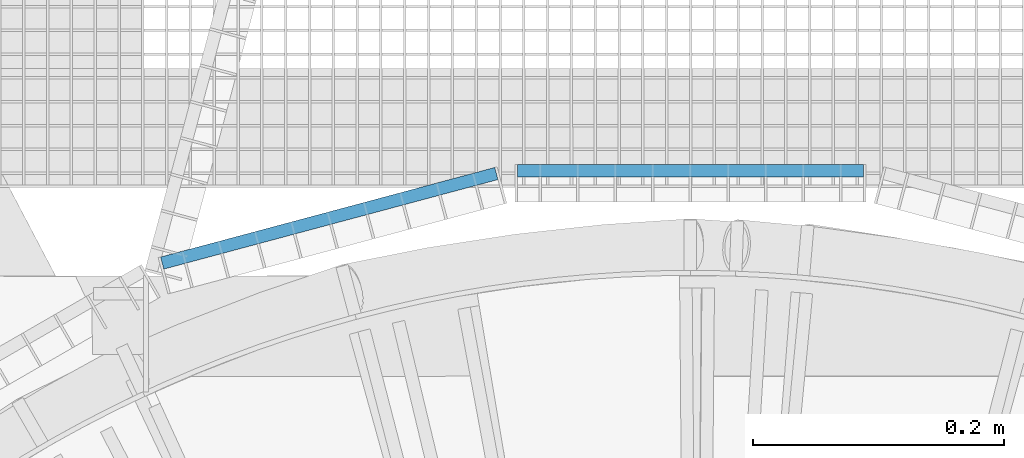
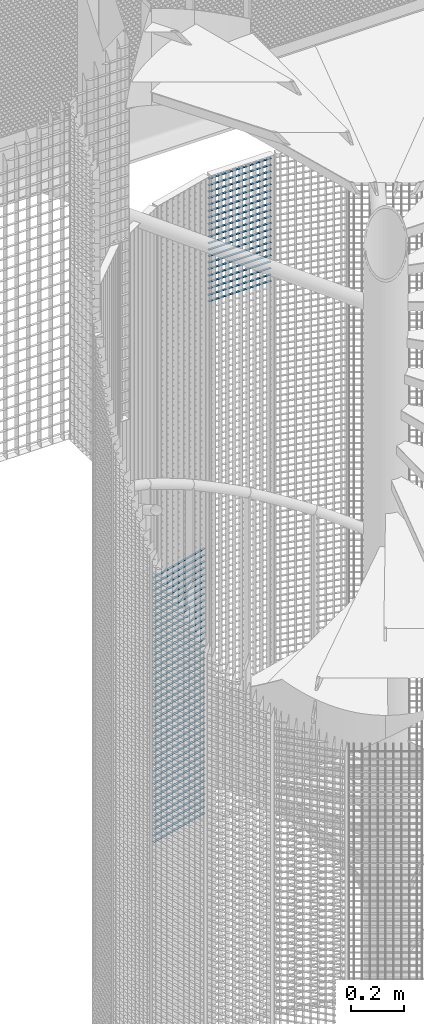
# One storey, part 304 of 1148: 62 beams, 2 elements without a shape of their own.
"""IFC2X3 building model written with IfcOpenShell, lengths in millimetres."""

from ifc_helpers import new_model, si_unit, frame, origin_with_axes, origin_2d_with_axis, place, context, subcontext, project, spatial, rectangle, extrude, material, type_object, element, aggregate, save


model = new_model("IFC2X3")

# Units and contexts
model_context = context("Model", 3, precision=1e-05, world=origin_with_axes())
body_context = subcontext(model_context, "Body", "Model", "MODEL_VIEW")
ifc_project = project(units=[si_unit("LENGTHUNIT", "METRE", prefix="MILLI"), si_unit("AREAUNIT", "SQUARE_METRE"), si_unit("VOLUMEUNIT", "CUBIC_METRE"), si_unit("MASSUNIT", "GRAM", prefix="KILO"), si_unit("TIMEUNIT", "SECOND"), si_unit("PLANEANGLEUNIT", "RADIAN"), si_unit("SOLIDANGLEUNIT", "STERADIAN"), si_unit("THERMODYNAMICTEMPERATUREUNIT", "DEGREE_CELSIUS"), si_unit("LUMINOUSINTENSITYUNIT", "LUMEN")], contexts=[model_context])

# Site, building, storey
site_placement = place(None, origin_with_axes())
site = spatial("IfcSite", under=ifc_project, at=site_placement, Name="Undefined", CompositionType="ELEMENT")
building_placement = place(site_placement, origin_with_axes())
building = spatial("IfcBuilding", under=site, at=building_placement, Name="Undefined", CompositionType="ELEMENT")
storey_placement = place(building_placement, origin_with_axes())
storey = spatial("IfcBuildingStorey", under=building, at=storey_placement, Name="Undefined", CompositionType="ELEMENT", Elevation=0.0)

# Assembly, beams
assembly_1_placement = place(storey_placement, origin_with_axes())
assembly_1 = element("IfcElementAssembly", 1, at=assembly_1_placement, inside=storey, Name="BORDURE", AssemblyPlace="NOTDEFINED", PredefinedType="NOTDEFINED")
ifc_material = material(Name="STEEL/S235JR")
beam_type = type_object("IfcBeamType", Name="PL2*10", PredefinedType="NOTDEFINED")
beam_1_placement = place(assembly_1_placement, frame((-154.895926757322, 1111.25508286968, 4260.0), z_axis=(-0.258819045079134, 0.965925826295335, 0.0), x_axis=(-0.965925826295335, -0.258819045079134, 0.0)))
beam_1 = element("IfcBeam", 2, at=beam_1_placement, type_object=beam_type, material=ifc_material, Name="ENTRETOISE", context=body_context, shape_type="SweptSolid", body=[
    extrude(rectangle(XDim=2.0, YDim=10.0, at=origin_2d_with_axis()), frame((275.999999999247, 9.09494701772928e-13, 1.53210777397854e-14), z_axis=(-1.0, 0.0, 0.0), x_axis=(0.0, -1.0, 0.0)), (0.0, 0.0, 1.0), 276.0),
])
beam_2_placement = place(assembly_1_placement, frame((-154.895926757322, 1111.25508286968, 4230.0), z_axis=(-0.258819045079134, 0.965925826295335, 0.0), x_axis=(-0.965925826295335, -0.258819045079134, 0.0)))
beam_2 = element("IfcBeam", 3, at=beam_2_placement, type_object=beam_type, material=ifc_material, Name="ENTRETOISE", context=body_context, shape_type="SweptSolid", body=[
    extrude(rectangle(XDim=2.0, YDim=10.0, at=origin_2d_with_axis()), frame((275.999999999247, 9.09494701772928e-13, 1.53210777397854e-14), z_axis=(-1.0, 0.0, 0.0), x_axis=(0.0, -1.0, 0.0)), (0.0, 0.0, 1.0), 276.0),
])
beam_3_placement = place(assembly_1_placement, frame((-154.895926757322, 1111.25508286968, 4200.0), z_axis=(-0.258819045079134, 0.965925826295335, 0.0), x_axis=(-0.965925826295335, -0.258819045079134, 0.0)))
beam_3 = element("IfcBeam", 4, at=beam_3_placement, type_object=beam_type, material=ifc_material, Name="ENTRETOISE", context=body_context, shape_type="SweptSolid", body=[
    extrude(rectangle(XDim=2.0, YDim=10.0, at=origin_2d_with_axis()), frame((275.999999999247, 9.09494701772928e-13, 1.53210777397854e-14), z_axis=(-1.0, 0.0, 0.0), x_axis=(0.0, -1.0, 0.0)), (0.0, 0.0, 1.0), 276.0),
])
beam_4_placement = place(assembly_1_placement, frame((-154.895926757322, 1111.25508286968, 4170.0), z_axis=(-0.258819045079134, 0.965925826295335, 0.0), x_axis=(-0.965925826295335, -0.258819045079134, 0.0)))
beam_4 = element("IfcBeam", 5, at=beam_4_placement, type_object=beam_type, material=ifc_material, Name="ENTRETOISE", context=body_context, shape_type="SweptSolid", body=[
    extrude(rectangle(XDim=2.0, YDim=10.0, at=origin_2d_with_axis()), frame((275.999999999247, 9.09494701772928e-13, 1.53210777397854e-14), z_axis=(-1.0, 0.0, 0.0), x_axis=(0.0, -1.0, 0.0)), (0.0, 0.0, 1.0), 276.0),
])
beam_5_placement = place(assembly_1_placement, frame((-154.895926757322, 1111.25508286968, 4140.0), z_axis=(-0.258819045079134, 0.965925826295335, 0.0), x_axis=(-0.965925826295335, -0.258819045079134, 0.0)))
beam_5 = element("IfcBeam", 6, at=beam_5_placement, type_object=beam_type, material=ifc_material, Name="ENTRETOISE", context=body_context, shape_type="SweptSolid", body=[
    extrude(rectangle(XDim=2.0, YDim=10.0, at=origin_2d_with_axis()), frame((275.999999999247, 9.09494701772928e-13, 1.53210777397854e-14), z_axis=(-1.0, 0.0, 0.0), x_axis=(0.0, -1.0, 0.0)), (0.0, 0.0, 1.0), 276.0),
])
beam_6_placement = place(assembly_1_placement, frame((-154.895926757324, 1111.25508286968, 3720.0), z_axis=(-0.258819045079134, 0.965925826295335, 0.0), x_axis=(-0.965925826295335, -0.258819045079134, 0.0)))
beam_6 = element("IfcBeam", 7, at=beam_6_placement, type_object=beam_type, material=ifc_material, Name="ENTRETOISE", context=body_context, shape_type="SweptSolid", body=[
    extrude(rectangle(XDim=2.0, YDim=10.0, at=origin_2d_with_axis()), frame((275.999999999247, 9.09494701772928e-13, 1.53210777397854e-14), z_axis=(-1.0, 0.0, 0.0), x_axis=(0.0, -1.0, 0.0)), (0.0, 0.0, 1.0), 276.0),
])
beam_7_placement = place(assembly_1_placement, frame((-154.895926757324, 1111.25508286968, 3690.0), z_axis=(-0.258819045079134, 0.965925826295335, 0.0), x_axis=(-0.965925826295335, -0.258819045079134, 0.0)))
beam_7 = element("IfcBeam", 8, at=beam_7_placement, type_object=beam_type, material=ifc_material, Name="ENTRETOISE", context=body_context, shape_type="SweptSolid", body=[
    extrude(rectangle(XDim=2.0, YDim=10.0, at=origin_2d_with_axis()), frame((275.999999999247, 9.09494701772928e-13, 1.53210777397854e-14), z_axis=(-1.0, 0.0, 0.0), x_axis=(0.0, -1.0, 0.0)), (0.0, 0.0, 1.0), 276.0),
])
beam_8_placement = place(assembly_1_placement, frame((-154.895926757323, 1111.25508286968, 3750.0), z_axis=(-0.258819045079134, 0.965925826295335, 0.0), x_axis=(-0.965925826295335, -0.258819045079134, 0.0)))
beam_8 = element("IfcBeam", 9, at=beam_8_placement, type_object=beam_type, material=ifc_material, Name="ENTRETOISE", context=body_context, shape_type="SweptSolid", body=[
    extrude(rectangle(XDim=2.0, YDim=10.0, at=origin_2d_with_axis()), frame((275.999999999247, 9.09494701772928e-13, 1.53210777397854e-14), z_axis=(-1.0, 0.0, 0.0), x_axis=(0.0, -1.0, 0.0)), (0.0, 0.0, 1.0), 276.0),
])
beam_9_placement = place(assembly_1_placement, frame((-154.895926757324, 1111.25508286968, 3660.0), z_axis=(-0.258819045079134, 0.965925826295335, 0.0), x_axis=(-0.965925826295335, -0.258819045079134, 0.0)))
beam_9 = element("IfcBeam", 10, at=beam_9_placement, type_object=beam_type, material=ifc_material, Name="ENTRETOISE", context=body_context, shape_type="SweptSolid", body=[
    extrude(rectangle(XDim=2.0, YDim=10.0, at=origin_2d_with_axis()), frame((275.999999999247, 9.09494701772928e-13, 1.53210777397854e-14), z_axis=(-1.0, 0.0, 0.0), x_axis=(0.0, -1.0, 0.0)), (0.0, 0.0, 1.0), 276.0),
])
beam_10_placement = place(assembly_1_placement, frame((-154.895926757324, 1111.25508286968, 3630.0), z_axis=(-0.258819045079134, 0.965925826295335, 0.0), x_axis=(-0.965925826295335, -0.258819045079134, 0.0)))
beam_10 = element("IfcBeam", 11, at=beam_10_placement, type_object=beam_type, material=ifc_material, Name="ENTRETOISE", context=body_context, shape_type="SweptSolid", body=[
    extrude(rectangle(XDim=2.0, YDim=10.0, at=origin_2d_with_axis()), frame((275.999999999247, 9.09494701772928e-13, 1.53210777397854e-14), z_axis=(-1.0, 0.0, 0.0), x_axis=(0.0, -1.0, 0.0)), (0.0, 0.0, 1.0), 276.0),
])
beam_11_placement = place(assembly_1_placement, frame((-154.895926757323, 1111.25508286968, 3780.0), z_axis=(-0.258819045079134, 0.965925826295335, 0.0), x_axis=(-0.965925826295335, -0.258819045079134, 0.0)))
beam_11 = element("IfcBeam", 12, at=beam_11_placement, type_object=beam_type, material=ifc_material, Name="ENTRETOISE", context=body_context, shape_type="SweptSolid", body=[
    extrude(rectangle(XDim=2.0, YDim=10.0, at=origin_2d_with_axis()), frame((275.999999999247, 9.09494701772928e-13, 1.53210777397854e-14), z_axis=(-1.0, 0.0, 0.0), x_axis=(0.0, -1.0, 0.0)), (0.0, 0.0, 1.0), 276.0),
])
beam_12_placement = place(assembly_1_placement, frame((-154.895926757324, 1111.25508286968, 3600.0), z_axis=(-0.258819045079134, 0.965925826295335, 0.0), x_axis=(-0.965925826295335, -0.258819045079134, 0.0)))
beam_12 = element("IfcBeam", 13, at=beam_12_placement, type_object=beam_type, material=ifc_material, Name="ENTRETOISE", context=body_context, shape_type="SweptSolid", body=[
    extrude(rectangle(XDim=2.0, YDim=10.0, at=origin_2d_with_axis()), frame((275.999999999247, 9.09494701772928e-13, 1.53210777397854e-14), z_axis=(-1.0, 0.0, 0.0), x_axis=(0.0, -1.0, 0.0)), (0.0, 0.0, 1.0), 276.0),
])
beam_13_placement = place(assembly_1_placement, frame((-154.895926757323, 1111.25508286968, 3810.0), z_axis=(-0.258819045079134, 0.965925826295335, 0.0), x_axis=(-0.965925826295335, -0.258819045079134, 0.0)))
beam_13 = element("IfcBeam", 14, at=beam_13_placement, type_object=beam_type, material=ifc_material, Name="ENTRETOISE", context=body_context, shape_type="SweptSolid", body=[
    extrude(rectangle(XDim=2.0, YDim=10.0, at=origin_2d_with_axis()), frame((275.999999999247, 9.09494701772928e-13, 1.53210777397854e-14), z_axis=(-1.0, 0.0, 0.0), x_axis=(0.0, -1.0, 0.0)), (0.0, 0.0, 1.0), 276.0),
])
beam_14_placement = place(assembly_1_placement, frame((-154.895926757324, 1111.25508286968, 3570.0), z_axis=(-0.258819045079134, 0.965925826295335, 0.0), x_axis=(-0.965925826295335, -0.258819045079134, 0.0)))
beam_14 = element("IfcBeam", 15, at=beam_14_placement, type_object=beam_type, material=ifc_material, Name="ENTRETOISE", context=body_context, shape_type="SweptSolid", body=[
    extrude(rectangle(XDim=2.0, YDim=10.0, at=origin_2d_with_axis()), frame((275.999999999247, 9.09494701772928e-13, 1.53210777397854e-14), z_axis=(-1.0, 0.0, 0.0), x_axis=(0.0, -1.0, 0.0)), (0.0, 0.0, 1.0), 276.0),
])
beam_15_placement = place(assembly_1_placement, frame((-154.895926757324, 1111.25508286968, 3540.0), z_axis=(-0.258819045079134, 0.965925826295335, 0.0), x_axis=(-0.965925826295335, -0.258819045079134, 0.0)))
beam_15 = element("IfcBeam", 16, at=beam_15_placement, type_object=beam_type, material=ifc_material, Name="ENTRETOISE", context=body_context, shape_type="SweptSolid", body=[
    extrude(rectangle(XDim=2.0, YDim=10.0, at=origin_2d_with_axis()), frame((275.999999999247, 9.09494701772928e-13, 1.53210777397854e-14), z_axis=(-1.0, 0.0, 0.0), x_axis=(0.0, -1.0, 0.0)), (0.0, 0.0, 1.0), 276.0),
])
beam_16_placement = place(assembly_1_placement, frame((-154.895926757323, 1111.25508286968, 3840.0), z_axis=(-0.258819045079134, 0.965925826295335, 0.0), x_axis=(-0.965925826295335, -0.258819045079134, 0.0)))
beam_16 = element("IfcBeam", 17, at=beam_16_placement, type_object=beam_type, material=ifc_material, Name="ENTRETOISE", context=body_context, shape_type="SweptSolid", body=[
    extrude(rectangle(XDim=2.0, YDim=10.0, at=origin_2d_with_axis()), frame((275.999999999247, 9.09494701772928e-13, 1.53210777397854e-14), z_axis=(-1.0, 0.0, 0.0), x_axis=(0.0, -1.0, 0.0)), (0.0, 0.0, 1.0), 276.0),
])
beam_17_placement = place(assembly_1_placement, frame((-154.895926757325, 1111.25508286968, 3510.0), z_axis=(-0.258819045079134, 0.965925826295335, 0.0), x_axis=(-0.965925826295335, -0.258819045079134, 0.0)))
beam_17 = element("IfcBeam", 18, at=beam_17_placement, type_object=beam_type, material=ifc_material, Name="ENTRETOISE", context=body_context, shape_type="SweptSolid", body=[
    extrude(rectangle(XDim=2.0, YDim=10.0, at=origin_2d_with_axis()), frame((275.999999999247, 9.09494701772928e-13, 1.53210777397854e-14), z_axis=(-1.0, 0.0, 0.0), x_axis=(0.0, -1.0, 0.0)), (0.0, 0.0, 1.0), 276.0),
])
beam_18_placement = place(assembly_1_placement, frame((-154.895926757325, 1111.25508286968, 3480.0), z_axis=(-0.258819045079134, 0.965925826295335, 0.0), x_axis=(-0.965925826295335, -0.258819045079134, 0.0)))
beam_18 = element("IfcBeam", 19, at=beam_18_placement, type_object=beam_type, material=ifc_material, Name="ENTRETOISE", context=body_context, shape_type="SweptSolid", body=[
    extrude(rectangle(XDim=2.0, YDim=10.0, at=origin_2d_with_axis()), frame((275.999999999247, 9.09494701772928e-13, 1.53210777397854e-14), z_axis=(-1.0, 0.0, 0.0), x_axis=(0.0, -1.0, 0.0)), (0.0, 0.0, 1.0), 276.0),
])
beam_19_placement = place(assembly_1_placement, frame((-154.895926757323, 1111.25508286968, 3870.0), z_axis=(-0.258819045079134, 0.965925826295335, 0.0), x_axis=(-0.965925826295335, -0.258819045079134, 0.0)))
beam_19 = element("IfcBeam", 20, at=beam_19_placement, type_object=beam_type, material=ifc_material, Name="ENTRETOISE", context=body_context, shape_type="SweptSolid", body=[
    extrude(rectangle(XDim=2.0, YDim=10.0, at=origin_2d_with_axis()), frame((275.999999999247, 9.09494701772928e-13, 1.53210777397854e-14), z_axis=(-1.0, 0.0, 0.0), x_axis=(0.0, -1.0, 0.0)), (0.0, 0.0, 1.0), 276.0),
])
beam_20_placement = place(assembly_1_placement, frame((-154.895926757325, 1111.25508286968, 3450.0), z_axis=(-0.258819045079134, 0.965925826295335, 0.0), x_axis=(-0.965925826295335, -0.258819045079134, 0.0)))
beam_20 = element("IfcBeam", 21, at=beam_20_placement, type_object=beam_type, material=ifc_material, Name="ENTRETOISE", context=body_context, shape_type="SweptSolid", body=[
    extrude(rectangle(XDim=2.0, YDim=10.0, at=origin_2d_with_axis()), frame((275.999999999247, 9.09494701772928e-13, 1.53210777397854e-14), z_axis=(-1.0, 0.0, 0.0), x_axis=(0.0, -1.0, 0.0)), (0.0, 0.0, 1.0), 276.0),
])
beam_21_placement = place(assembly_1_placement, frame((-154.895926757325, 1111.25508286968, 3420.0), z_axis=(-0.258819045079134, 0.965925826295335, 0.0), x_axis=(-0.965925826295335, -0.258819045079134, 0.0)))
beam_21 = element("IfcBeam", 22, at=beam_21_placement, type_object=beam_type, material=ifc_material, Name="ENTRETOISE", context=body_context, shape_type="SweptSolid", body=[
    extrude(rectangle(XDim=2.0, YDim=10.0, at=origin_2d_with_axis()), frame((275.999999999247, 9.09494701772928e-13, 1.53210777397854e-14), z_axis=(-1.0, 0.0, 0.0), x_axis=(0.0, -1.0, 0.0)), (0.0, 0.0, 1.0), 276.0),
])
beam_22_placement = place(assembly_1_placement, frame((-154.895926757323, 1111.25508286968, 3900.0), z_axis=(-0.258819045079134, 0.965925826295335, 0.0), x_axis=(-0.965925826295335, -0.258819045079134, 0.0)))
beam_22 = element("IfcBeam", 23, at=beam_22_placement, type_object=beam_type, material=ifc_material, Name="ENTRETOISE", context=body_context, shape_type="SweptSolid", body=[
    extrude(rectangle(XDim=2.0, YDim=10.0, at=origin_2d_with_axis()), frame((275.999999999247, 9.09494701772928e-13, 1.53210777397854e-14), z_axis=(-1.0, 0.0, 0.0), x_axis=(0.0, -1.0, 0.0)), (0.0, 0.0, 1.0), 276.0),
])
beam_23_placement = place(assembly_1_placement, frame((-154.895926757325, 1111.25508286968, 3390.0), z_axis=(-0.258819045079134, 0.965925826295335, 0.0), x_axis=(-0.965925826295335, -0.258819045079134, 0.0)))
beam_23 = element("IfcBeam", 24, at=beam_23_placement, type_object=beam_type, material=ifc_material, Name="ENTRETOISE", context=body_context, shape_type="SweptSolid", body=[
    extrude(rectangle(XDim=2.0, YDim=10.0, at=origin_2d_with_axis()), frame((275.999999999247, 9.09494701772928e-13, 1.53210777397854e-14), z_axis=(-1.0, 0.0, 0.0), x_axis=(0.0, -1.0, 0.0)), (0.0, 0.0, 1.0), 276.0),
])
beam_24_placement = place(assembly_1_placement, frame((-154.895926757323, 1111.25508286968, 3930.0), z_axis=(-0.258819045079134, 0.965925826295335, 0.0), x_axis=(-0.965925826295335, -0.258819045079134, 0.0)))
beam_24 = element("IfcBeam", 25, at=beam_24_placement, type_object=beam_type, material=ifc_material, Name="ENTRETOISE", context=body_context, shape_type="SweptSolid", body=[
    extrude(rectangle(XDim=2.0, YDim=10.0, at=origin_2d_with_axis()), frame((275.999999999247, 9.09494701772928e-13, 1.53210777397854e-14), z_axis=(-1.0, 0.0, 0.0), x_axis=(0.0, -1.0, 0.0)), (0.0, 0.0, 1.0), 276.0),
])
beam_25_placement = place(assembly_1_placement, frame((-154.895926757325, 1111.25508286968, 3360.0), z_axis=(-0.258819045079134, 0.965925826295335, 0.0), x_axis=(-0.965925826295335, -0.258819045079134, 0.0)))
beam_25 = element("IfcBeam", 26, at=beam_25_placement, type_object=beam_type, material=ifc_material, Name="ENTRETOISE", context=body_context, shape_type="SweptSolid", body=[
    extrude(rectangle(XDim=2.0, YDim=10.0, at=origin_2d_with_axis()), frame((275.999999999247, 9.09494701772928e-13, 1.53210777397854e-14), z_axis=(-1.0, 0.0, 0.0), x_axis=(0.0, -1.0, 0.0)), (0.0, 0.0, 1.0), 276.0),
])
beam_26_placement = place(assembly_1_placement, frame((-154.895926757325, 1111.25508286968, 3330.0), z_axis=(-0.258819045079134, 0.965925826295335, 0.0), x_axis=(-0.965925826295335, -0.258819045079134, 0.0)))
beam_26 = element("IfcBeam", 27, at=beam_26_placement, type_object=beam_type, material=ifc_material, Name="ENTRETOISE", context=body_context, shape_type="SweptSolid", body=[
    extrude(rectangle(XDim=2.0, YDim=10.0, at=origin_2d_with_axis()), frame((275.999999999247, 9.09494701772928e-13, 1.53210777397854e-14), z_axis=(-1.0, 0.0, 0.0), x_axis=(0.0, -1.0, 0.0)), (0.0, 0.0, 1.0), 276.0),
])
beam_27_placement = place(assembly_1_placement, frame((-154.895926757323, 1111.25508286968, 3960.0), z_axis=(-0.258819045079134, 0.965925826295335, 0.0), x_axis=(-0.965925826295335, -0.258819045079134, 0.0)))
beam_27 = element("IfcBeam", 28, at=beam_27_placement, type_object=beam_type, material=ifc_material, Name="ENTRETOISE", context=body_context, shape_type="SweptSolid", body=[
    extrude(rectangle(XDim=2.0, YDim=10.0, at=origin_2d_with_axis()), frame((275.999999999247, 9.09494701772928e-13, 1.53210777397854e-14), z_axis=(-1.0, 0.0, 0.0), x_axis=(0.0, -1.0, 0.0)), (0.0, 0.0, 1.0), 276.0),
])
beam_28_placement = place(assembly_1_placement, frame((-154.895926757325, 1111.25508286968, 3300.0), z_axis=(-0.258819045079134, 0.965925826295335, 0.0), x_axis=(-0.965925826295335, -0.258819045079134, 0.0)))
beam_28 = element("IfcBeam", 29, at=beam_28_placement, type_object=beam_type, material=ifc_material, Name="ENTRETOISE", context=body_context, shape_type="SweptSolid", body=[
    extrude(rectangle(XDim=2.0, YDim=10.0, at=origin_2d_with_axis()), frame((275.999999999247, 9.09494701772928e-13, 1.53210777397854e-14), z_axis=(-1.0, 0.0, 0.0), x_axis=(0.0, -1.0, 0.0)), (0.0, 0.0, 1.0), 276.0),
])
beam_29_placement = place(assembly_1_placement, frame((-154.895926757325, 1111.25508286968, 3270.0), z_axis=(-0.258819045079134, 0.965925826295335, 0.0), x_axis=(-0.965925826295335, -0.258819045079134, 0.0)))
beam_29 = element("IfcBeam", 30, at=beam_29_placement, type_object=beam_type, material=ifc_material, Name="ENTRETOISE", context=body_context, shape_type="SweptSolid", body=[
    extrude(rectangle(XDim=2.0, YDim=10.0, at=origin_2d_with_axis()), frame((275.999999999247, 9.09494701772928e-13, 1.53210777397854e-14), z_axis=(-1.0, 0.0, 0.0), x_axis=(0.0, -1.0, 0.0)), (0.0, 0.0, 1.0), 276.0),
])
beam_30_placement = place(assembly_1_placement, frame((-154.895926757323, 1111.25508286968, 3990.0), z_axis=(-0.258819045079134, 0.965925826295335, 0.0), x_axis=(-0.965925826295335, -0.258819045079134, 0.0)))
beam_30 = element("IfcBeam", 31, at=beam_30_placement, type_object=beam_type, material=ifc_material, Name="ENTRETOISE", context=body_context, shape_type="SweptSolid", body=[
    extrude(rectangle(XDim=2.0, YDim=10.0, at=origin_2d_with_axis()), frame((275.999999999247, 9.09494701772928e-13, 1.53210777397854e-14), z_axis=(-1.0, 0.0, 0.0), x_axis=(0.0, -1.0, 0.0)), (0.0, 0.0, 1.0), 276.0),
])
beam_31_placement = place(assembly_1_placement, frame((-154.895926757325, 1111.25508286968, 3240.0), z_axis=(-0.258819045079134, 0.965925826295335, 0.0), x_axis=(-0.965925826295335, -0.258819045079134, 0.0)))
beam_31 = element("IfcBeam", 32, at=beam_31_placement, type_object=beam_type, material=ifc_material, Name="ENTRETOISE", context=body_context, shape_type="SweptSolid", body=[
    extrude(rectangle(XDim=2.0, YDim=10.0, at=origin_2d_with_axis()), frame((275.999999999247, 9.09494701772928e-13, 1.53210777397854e-14), z_axis=(-1.0, 0.0, 0.0), x_axis=(0.0, -1.0, 0.0)), (0.0, 0.0, 1.0), 276.0),
])
beam_32_placement = place(assembly_1_placement, frame((-154.895926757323, 1111.25508286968, 4020.0), z_axis=(-0.258819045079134, 0.965925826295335, 0.0), x_axis=(-0.965925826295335, -0.258819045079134, 0.0)))
beam_32 = element("IfcBeam", 33, at=beam_32_placement, type_object=beam_type, material=ifc_material, Name="ENTRETOISE", context=body_context, shape_type="SweptSolid", body=[
    extrude(rectangle(XDim=2.0, YDim=10.0, at=origin_2d_with_axis()), frame((275.999999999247, 9.09494701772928e-13, 1.53210777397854e-14), z_axis=(-1.0, 0.0, 0.0), x_axis=(0.0, -1.0, 0.0)), (0.0, 0.0, 1.0), 276.0),
])
beam_33_placement = place(assembly_1_placement, frame((-154.895926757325, 1111.25508286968, 3210.0), z_axis=(-0.258819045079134, 0.965925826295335, 0.0), x_axis=(-0.965925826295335, -0.258819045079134, 0.0)))
beam_33 = element("IfcBeam", 34, at=beam_33_placement, type_object=beam_type, material=ifc_material, Name="ENTRETOISE", context=body_context, shape_type="SweptSolid", body=[
    extrude(rectangle(XDim=2.0, YDim=10.0, at=origin_2d_with_axis()), frame((275.999999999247, 9.09494701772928e-13, 1.53210777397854e-14), z_axis=(-1.0, 0.0, 0.0), x_axis=(0.0, -1.0, 0.0)), (0.0, 0.0, 1.0), 276.0),
])
beam_34_placement = place(assembly_1_placement, frame((-154.895926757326, 1111.25508286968, 3180.0), z_axis=(-0.258819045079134, 0.965925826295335, 0.0), x_axis=(-0.965925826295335, -0.258819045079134, 0.0)))
beam_34 = element("IfcBeam", 35, at=beam_34_placement, type_object=beam_type, material=ifc_material, Name="ENTRETOISE", context=body_context, shape_type="SweptSolid", body=[
    extrude(rectangle(XDim=2.0, YDim=10.0, at=origin_2d_with_axis()), frame((275.999999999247, 9.09494701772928e-13, 1.53210777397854e-14), z_axis=(-1.0, 0.0, 0.0), x_axis=(0.0, -1.0, 0.0)), (0.0, 0.0, 1.0), 276.0),
])
beam_35_placement = place(assembly_1_placement, frame((-154.895926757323, 1111.25508286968, 4050.0), z_axis=(-0.258819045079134, 0.965925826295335, 0.0), x_axis=(-0.965925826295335, -0.258819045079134, 0.0)))
beam_35 = element("IfcBeam", 36, at=beam_35_placement, type_object=beam_type, material=ifc_material, Name="ENTRETOISE", context=body_context, shape_type="SweptSolid", body=[
    extrude(rectangle(XDim=2.0, YDim=10.0, at=origin_2d_with_axis()), frame((275.999999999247, 9.09494701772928e-13, 1.53210777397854e-14), z_axis=(-1.0, 0.0, 0.0), x_axis=(0.0, -1.0, 0.0)), (0.0, 0.0, 1.0), 276.0),
])
beam_36_placement = place(assembly_1_placement, frame((-154.895926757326, 1111.25508286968, 3150.0), z_axis=(-0.258819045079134, 0.965925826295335, 0.0), x_axis=(-0.965925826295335, -0.258819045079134, 0.0)))
beam_36 = element("IfcBeam", 37, at=beam_36_placement, type_object=beam_type, material=ifc_material, Name="ENTRETOISE", context=body_context, shape_type="SweptSolid", body=[
    extrude(rectangle(XDim=2.0, YDim=10.0, at=origin_2d_with_axis()), frame((275.999999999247, 9.09494701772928e-13, 1.53210777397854e-14), z_axis=(-1.0, 0.0, 0.0), x_axis=(0.0, -1.0, 0.0)), (0.0, 0.0, 1.0), 276.0),
])
beam_37_placement = place(assembly_1_placement, frame((-154.895926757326, 1111.25508286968, 3120.0), z_axis=(-0.258819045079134, 0.965925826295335, 0.0), x_axis=(-0.965925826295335, -0.258819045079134, 0.0)))
beam_37 = element("IfcBeam", 38, at=beam_37_placement, type_object=beam_type, material=ifc_material, Name="ENTRETOISE", context=body_context, shape_type="SweptSolid", body=[
    extrude(rectangle(XDim=2.0, YDim=10.0, at=origin_2d_with_axis()), frame((275.999999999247, 9.09494701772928e-13, 1.53210777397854e-14), z_axis=(-1.0, 0.0, 0.0), x_axis=(0.0, -1.0, 0.0)), (0.0, 0.0, 1.0), 276.0),
])
beam_38_placement = place(assembly_1_placement, frame((-154.895926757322, 1111.25508286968, 4080.0), z_axis=(-0.258819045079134, 0.965925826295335, 0.0), x_axis=(-0.965925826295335, -0.258819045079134, 0.0)))
beam_38 = element("IfcBeam", 39, at=beam_38_placement, type_object=beam_type, material=ifc_material, Name="ENTRETOISE", context=body_context, shape_type="SweptSolid", body=[
    extrude(rectangle(XDim=2.0, YDim=10.0, at=origin_2d_with_axis()), frame((275.999999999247, 9.09494701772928e-13, 1.53210777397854e-14), z_axis=(-1.0, 0.0, 0.0), x_axis=(0.0, -1.0, 0.0)), (0.0, 0.0, 1.0), 276.0),
])
beam_39_placement = place(assembly_1_placement, frame((-154.895926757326, 1111.25508286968, 3090.0), z_axis=(-0.258819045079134, 0.965925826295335, 0.0), x_axis=(-0.965925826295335, -0.258819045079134, 0.0)))
beam_39 = element("IfcBeam", 40, at=beam_39_placement, type_object=beam_type, material=ifc_material, Name="ENTRETOISE", context=body_context, shape_type="SweptSolid", body=[
    extrude(rectangle(XDim=2.0, YDim=10.0, at=origin_2d_with_axis()), frame((275.999999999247, 9.09494701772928e-13, 1.53210777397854e-14), z_axis=(-1.0, 0.0, 0.0), x_axis=(0.0, -1.0, 0.0)), (0.0, 0.0, 1.0), 276.0),
])
beam_40_placement = place(assembly_1_placement, frame((-154.895926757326, 1111.25508286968, 3060.0), z_axis=(-0.258819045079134, 0.965925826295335, 0.0), x_axis=(-0.965925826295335, -0.258819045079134, 0.0)))
beam_40 = element("IfcBeam", 41, at=beam_40_placement, type_object=beam_type, material=ifc_material, Name="ENTRETOISE", context=body_context, shape_type="SweptSolid", body=[
    extrude(rectangle(XDim=2.0, YDim=10.0, at=origin_2d_with_axis()), frame((275.999999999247, 9.09494701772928e-13, 1.53210777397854e-14), z_axis=(-1.0, 0.0, 0.0), x_axis=(0.0, -1.0, 0.0)), (0.0, 0.0, 1.0), 276.0),
])
beam_41_placement = place(assembly_1_placement, frame((-154.895926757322, 1111.25508286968, 4110.0), z_axis=(-0.258819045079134, 0.965925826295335, 0.0), x_axis=(-0.965925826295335, -0.258819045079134, 0.0)))
beam_41 = element("IfcBeam", 42, at=beam_41_placement, type_object=beam_type, material=ifc_material, Name="ENTRETOISE", context=body_context, shape_type="SweptSolid", body=[
    extrude(rectangle(XDim=2.0, YDim=10.0, at=origin_2d_with_axis()), frame((275.999999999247, 9.09494701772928e-13, 1.53210777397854e-14), z_axis=(-1.0, 0.0, 0.0), x_axis=(0.0, -1.0, 0.0)), (0.0, 0.0, 1.0), 276.0),
])
beam_42_placement = place(assembly_1_placement, frame((-154.895926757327, 1111.25508286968, 3030.0), z_axis=(-0.258819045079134, 0.965925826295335, 0.0), x_axis=(-0.965925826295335, -0.258819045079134, 0.0)))
beam_42 = element("IfcBeam", 43, at=beam_42_placement, type_object=beam_type, material=ifc_material, Name="ENTRETOISE", context=body_context, shape_type="SweptSolid", body=[
    extrude(rectangle(XDim=2.0, YDim=10.0, at=origin_2d_with_axis()), frame((275.999999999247, 9.09494701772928e-13, 1.53210777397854e-14), z_axis=(-1.0, 0.0, 0.0), x_axis=(0.0, -1.0, 0.0)), (0.0, 0.0, 1.0), 276.0),
])
aggregate(assembly_1, [beam_1, beam_2, beam_3, beam_4, beam_5, beam_6, beam_7, beam_8, beam_9, beam_10, beam_11, beam_12, beam_13, beam_14, beam_15, beam_16, beam_17, beam_18, beam_19, beam_20, beam_21, beam_22, beam_23, beam_24, beam_25, beam_26, beam_27, beam_28, beam_29, beam_30, beam_31, beam_32, beam_33, beam_34, beam_35, beam_36, beam_37, beam_38, beam_39, beam_40, beam_41, beam_42])

assembly_2_placement = place(storey_placement, origin_with_axes())
assembly_2 = element("IfcElementAssembly", 44, at=assembly_2_placement, inside=storey, Name="BORDURE", AssemblyPlace="NOTDEFINED", PredefinedType="NOTDEFINED")
beam_43_placement = place(assembly_2_placement, frame((137.996003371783, 1113.47999999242, 5970.0), z_axis=(0.0, 1.0, 0.0), x_axis=(-1.0, 0.0, 0.0)))
beam_43 = element("IfcBeam", 45, at=beam_43_placement, type_object=beam_type, material=ifc_material, Name="ENTRETOISE", context=body_context, shape_type="SweptSolid", body=[
    extrude(rectangle(XDim=2.0, YDim=10.0, at=origin_2d_with_axis()), frame((275.999999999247, 9.09494701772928e-13, 1.53210777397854e-14), z_axis=(-1.0, 0.0, 0.0), x_axis=(0.0, -1.0, 0.0)), (0.0, 0.0, 1.0), 276.0),
])
beam_44_placement = place(assembly_2_placement, frame((137.996003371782, 1113.47999999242, 5940.0), z_axis=(0.0, 1.0, 0.0), x_axis=(-1.0, 0.0, 0.0)))
beam_44 = element("IfcBeam", 46, at=beam_44_placement, type_object=beam_type, material=ifc_material, Name="ENTRETOISE", context=body_context, shape_type="SweptSolid", body=[
    extrude(rectangle(XDim=2.0, YDim=10.0, at=origin_2d_with_axis()), frame((275.999999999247, 9.09494701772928e-13, 1.53210777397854e-14), z_axis=(-1.0, 0.0, 0.0), x_axis=(0.0, -1.0, 0.0)), (0.0, 0.0, 1.0), 276.0),
])
beam_45_placement = place(assembly_2_placement, frame((137.996003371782, 1113.47999999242, 5910.0), z_axis=(0.0, 1.0, 0.0), x_axis=(-1.0, 0.0, 0.0)))
beam_45 = element("IfcBeam", 47, at=beam_45_placement, type_object=beam_type, material=ifc_material, Name="ENTRETOISE", context=body_context, shape_type="SweptSolid", body=[
    extrude(rectangle(XDim=2.0, YDim=10.0, at=origin_2d_with_axis()), frame((275.999999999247, 9.09494701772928e-13, 1.53210777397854e-14), z_axis=(-1.0, 0.0, 0.0), x_axis=(0.0, -1.0, 0.0)), (0.0, 0.0, 1.0), 276.0),
])
beam_46_placement = place(assembly_2_placement, frame((137.996003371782, 1113.47999999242, 5880.0), z_axis=(0.0, 1.0, 0.0), x_axis=(-1.0, 0.0, 0.0)))
beam_46 = element("IfcBeam", 48, at=beam_46_placement, type_object=beam_type, material=ifc_material, Name="ENTRETOISE", context=body_context, shape_type="SweptSolid", body=[
    extrude(rectangle(XDim=2.0, YDim=10.0, at=origin_2d_with_axis()), frame((275.999999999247, 9.09494701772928e-13, 1.53210777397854e-14), z_axis=(-1.0, 0.0, 0.0), x_axis=(0.0, -1.0, 0.0)), (0.0, 0.0, 1.0), 276.0),
])
beam_47_placement = place(assembly_2_placement, frame((137.996003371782, 1113.47999999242, 5850.0), z_axis=(0.0, 1.0, 0.0), x_axis=(-1.0, 0.0, 0.0)))
beam_47 = element("IfcBeam", 49, at=beam_47_placement, type_object=beam_type, material=ifc_material, Name="ENTRETOISE", context=body_context, shape_type="SweptSolid", body=[
    extrude(rectangle(XDim=2.0, YDim=10.0, at=origin_2d_with_axis()), frame((275.999999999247, 9.09494701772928e-13, 1.53210777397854e-14), z_axis=(-1.0, 0.0, 0.0), x_axis=(0.0, -1.0, 0.0)), (0.0, 0.0, 1.0), 276.0),
])
beam_48_placement = place(assembly_2_placement, frame((137.996003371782, 1113.47999999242, 5820.0), z_axis=(0.0, 1.0, 0.0), x_axis=(-1.0, 0.0, 0.0)))
beam_48 = element("IfcBeam", 50, at=beam_48_placement, type_object=beam_type, material=ifc_material, Name="ENTRETOISE", context=body_context, shape_type="SweptSolid", body=[
    extrude(rectangle(XDim=2.0, YDim=10.0, at=origin_2d_with_axis()), frame((275.999999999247, 9.09494701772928e-13, 1.53210777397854e-14), z_axis=(-1.0, 0.0, 0.0), x_axis=(0.0, -1.0, 0.0)), (0.0, 0.0, 1.0), 276.0),
])
beam_49_placement = place(assembly_2_placement, frame((137.996003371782, 1113.47999999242, 5790.0), z_axis=(0.0, 1.0, 0.0), x_axis=(-1.0, 0.0, 0.0)))
beam_49 = element("IfcBeam", 51, at=beam_49_placement, type_object=beam_type, material=ifc_material, Name="ENTRETOISE", context=body_context, shape_type="SweptSolid", body=[
    extrude(rectangle(XDim=2.0, YDim=10.0, at=origin_2d_with_axis()), frame((275.999999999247, 9.09494701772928e-13, 1.53210777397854e-14), z_axis=(-1.0, 0.0, 0.0), x_axis=(0.0, -1.0, 0.0)), (0.0, 0.0, 1.0), 276.0),
])
beam_50_placement = place(assembly_2_placement, frame((137.996003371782, 1113.47999999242, 5760.0), z_axis=(0.0, 1.0, 0.0), x_axis=(-1.0, 0.0, 0.0)))
beam_50 = element("IfcBeam", 52, at=beam_50_placement, type_object=beam_type, material=ifc_material, Name="ENTRETOISE", context=body_context, shape_type="SweptSolid", body=[
    extrude(rectangle(XDim=2.0, YDim=10.0, at=origin_2d_with_axis()), frame((275.999999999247, 9.09494701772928e-13, 1.53210777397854e-14), z_axis=(-1.0, 0.0, 0.0), x_axis=(0.0, -1.0, 0.0)), (0.0, 0.0, 1.0), 276.0),
])
beam_51_placement = place(assembly_2_placement, frame((137.996003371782, 1113.47999999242, 5730.0), z_axis=(0.0, 1.0, 0.0), x_axis=(-1.0, 0.0, 0.0)))
beam_51 = element("IfcBeam", 53, at=beam_51_placement, type_object=beam_type, material=ifc_material, Name="ENTRETOISE", context=body_context, shape_type="SweptSolid", body=[
    extrude(rectangle(XDim=2.0, YDim=10.0, at=origin_2d_with_axis()), frame((275.999999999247, 9.09494701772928e-13, 1.53210777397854e-14), z_axis=(-1.0, 0.0, 0.0), x_axis=(0.0, -1.0, 0.0)), (0.0, 0.0, 1.0), 276.0),
])
beam_52_placement = place(assembly_2_placement, frame((137.996003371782, 1113.47999999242, 5700.0), z_axis=(0.0, 1.0, 0.0), x_axis=(-1.0, 0.0, 0.0)))
beam_52 = element("IfcBeam", 54, at=beam_52_placement, type_object=beam_type, material=ifc_material, Name="ENTRETOISE", context=body_context, shape_type="SweptSolid", body=[
    extrude(rectangle(XDim=2.0, YDim=10.0, at=origin_2d_with_axis()), frame((275.999999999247, 9.09494701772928e-13, 1.53210777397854e-14), z_axis=(-1.0, 0.0, 0.0), x_axis=(0.0, -1.0, 0.0)), (0.0, 0.0, 1.0), 276.0),
])
beam_53_placement = place(assembly_2_placement, frame((137.996003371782, 1113.47999999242, 5670.0), z_axis=(0.0, 1.0, 0.0), x_axis=(-1.0, 0.0, 0.0)))
beam_53 = element("IfcBeam", 55, at=beam_53_placement, type_object=beam_type, material=ifc_material, Name="ENTRETOISE", context=body_context, shape_type="SweptSolid", body=[
    extrude(rectangle(XDim=2.0, YDim=10.0, at=origin_2d_with_axis()), frame((275.999999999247, 9.09494701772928e-13, 1.53210777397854e-14), z_axis=(-1.0, 0.0, 0.0), x_axis=(0.0, -1.0, 0.0)), (0.0, 0.0, 1.0), 276.0),
])
beam_54_placement = place(assembly_2_placement, frame((137.996003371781, 1113.47999999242, 5640.0), z_axis=(0.0, 1.0, 0.0), x_axis=(-1.0, 0.0, 0.0)))
beam_54 = element("IfcBeam", 56, at=beam_54_placement, type_object=beam_type, material=ifc_material, Name="ENTRETOISE", context=body_context, shape_type="SweptSolid", body=[
    extrude(rectangle(XDim=2.0, YDim=10.0, at=origin_2d_with_axis()), frame((275.999999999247, 9.09494701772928e-13, 1.53210777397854e-14), z_axis=(-1.0, 0.0, 0.0), x_axis=(0.0, -1.0, 0.0)), (0.0, 0.0, 1.0), 276.0),
])
beam_55_placement = place(assembly_2_placement, frame((137.996003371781, 1113.47999999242, 5610.0), z_axis=(0.0, 1.0, 0.0), x_axis=(-1.0, 0.0, 0.0)))
beam_55 = element("IfcBeam", 57, at=beam_55_placement, type_object=beam_type, material=ifc_material, Name="ENTRETOISE", context=body_context, shape_type="SweptSolid", body=[
    extrude(rectangle(XDim=2.0, YDim=10.0, at=origin_2d_with_axis()), frame((275.999999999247, 9.09494701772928e-13, 1.53210777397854e-14), z_axis=(-1.0, 0.0, 0.0), x_axis=(0.0, -1.0, 0.0)), (0.0, 0.0, 1.0), 276.0),
])
beam_56_placement = place(assembly_2_placement, frame((137.996003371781, 1113.47999999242, 5580.0), z_axis=(0.0, 1.0, 0.0), x_axis=(-1.0, 0.0, 0.0)))
beam_56 = element("IfcBeam", 58, at=beam_56_placement, type_object=beam_type, material=ifc_material, Name="ENTRETOISE", context=body_context, shape_type="SweptSolid", body=[
    extrude(rectangle(XDim=2.0, YDim=10.0, at=origin_2d_with_axis()), frame((275.999999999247, 9.09494701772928e-13, 1.53210777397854e-14), z_axis=(-1.0, 0.0, 0.0), x_axis=(0.0, -1.0, 0.0)), (0.0, 0.0, 1.0), 276.0),
])
beam_57_placement = place(assembly_2_placement, frame((137.996003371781, 1113.47999999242, 5550.0), z_axis=(0.0, 1.0, 0.0), x_axis=(-1.0, 0.0, 0.0)))
beam_57 = element("IfcBeam", 59, at=beam_57_placement, type_object=beam_type, material=ifc_material, Name="ENTRETOISE", context=body_context, shape_type="SweptSolid", body=[
    extrude(rectangle(XDim=2.0, YDim=10.0, at=origin_2d_with_axis()), frame((275.999999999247, 9.09494701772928e-13, 1.53210777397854e-14), z_axis=(-1.0, 0.0, 0.0), x_axis=(0.0, -1.0, 0.0)), (0.0, 0.0, 1.0), 276.0),
])
beam_58_placement = place(assembly_2_placement, frame((137.996003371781, 1113.47999999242, 5520.0), z_axis=(0.0, 1.0, 0.0), x_axis=(-1.0, 0.0, 0.0)))
beam_58 = element("IfcBeam", 60, at=beam_58_placement, type_object=beam_type, material=ifc_material, Name="ENTRETOISE", context=body_context, shape_type="SweptSolid", body=[
    extrude(rectangle(XDim=2.0, YDim=10.0, at=origin_2d_with_axis()), frame((275.999999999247, 9.09494701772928e-13, 1.53210777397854e-14), z_axis=(-1.0, 0.0, 0.0), x_axis=(0.0, -1.0, 0.0)), (0.0, 0.0, 1.0), 276.0),
])
beam_59_placement = place(assembly_2_placement, frame((137.996003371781, 1113.47999999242, 5490.0), z_axis=(0.0, 1.0, 0.0), x_axis=(-1.0, 0.0, 0.0)))
beam_59 = element("IfcBeam", 61, at=beam_59_placement, type_object=beam_type, material=ifc_material, Name="ENTRETOISE", context=body_context, shape_type="SweptSolid", body=[
    extrude(rectangle(XDim=2.0, YDim=10.0, at=origin_2d_with_axis()), frame((275.999999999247, 9.09494701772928e-13, 1.53210777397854e-14), z_axis=(-1.0, 0.0, 0.0), x_axis=(0.0, -1.0, 0.0)), (0.0, 0.0, 1.0), 276.0),
])
beam_60_placement = place(assembly_2_placement, frame((137.996003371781, 1113.47999999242, 5460.0), z_axis=(0.0, 1.0, 0.0), x_axis=(-1.0, 0.0, 0.0)))
beam_60 = element("IfcBeam", 62, at=beam_60_placement, type_object=beam_type, material=ifc_material, Name="ENTRETOISE", context=body_context, shape_type="SweptSolid", body=[
    extrude(rectangle(XDim=2.0, YDim=10.0, at=origin_2d_with_axis()), frame((275.999999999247, 9.09494701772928e-13, 1.53210777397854e-14), z_axis=(-1.0, 0.0, 0.0), x_axis=(0.0, -1.0, 0.0)), (0.0, 0.0, 1.0), 276.0),
])
beam_61_placement = place(assembly_2_placement, frame((137.996003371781, 1113.47999999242, 5430.0), z_axis=(0.0, 1.0, 0.0), x_axis=(-1.0, 0.0, 0.0)))
beam_61 = element("IfcBeam", 63, at=beam_61_placement, type_object=beam_type, material=ifc_material, Name="ENTRETOISE", context=body_context, shape_type="SweptSolid", body=[
    extrude(rectangle(XDim=2.0, YDim=10.0, at=origin_2d_with_axis()), frame((275.999999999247, 9.09494701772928e-13, 1.53210777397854e-14), z_axis=(-1.0, 0.0, 0.0), x_axis=(0.0, -1.0, 0.0)), (0.0, 0.0, 1.0), 276.0),
])
beam_62_placement = place(assembly_2_placement, frame((137.99600337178, 1113.47999999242, 5400.0), z_axis=(0.0, 1.0, 0.0), x_axis=(-1.0, 0.0, 0.0)))
beam_62 = element("IfcBeam", 64, at=beam_62_placement, type_object=beam_type, material=ifc_material, Name="ENTRETOISE", context=body_context, shape_type="SweptSolid", body=[
    extrude(rectangle(XDim=2.0, YDim=10.0, at=origin_2d_with_axis()), frame((275.999999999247, 9.09494701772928e-13, 1.53210777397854e-14), z_axis=(-1.0, 0.0, 0.0), x_axis=(0.0, -1.0, 0.0)), (0.0, 0.0, 1.0), 276.0),
])
aggregate(assembly_2, [beam_43, beam_44, beam_45, beam_46, beam_47, beam_48, beam_49, beam_50, beam_51, beam_52, beam_53, beam_54, beam_55, beam_56, beam_57, beam_58, beam_59, beam_60, beam_61, beam_62])

save(model, "model.ifc")
